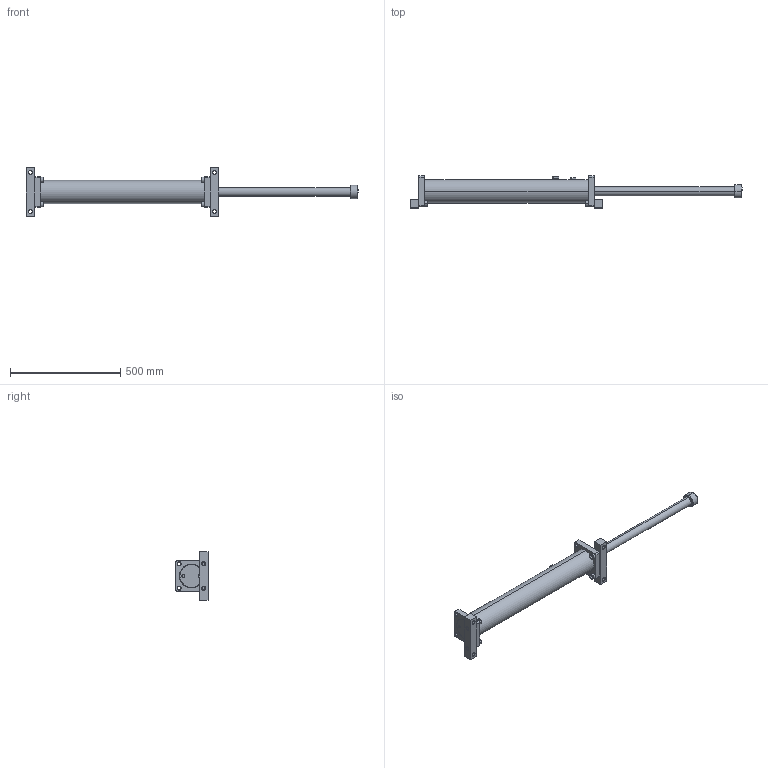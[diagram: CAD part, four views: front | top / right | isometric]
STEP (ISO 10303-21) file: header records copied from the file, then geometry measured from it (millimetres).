
FILE_DESCRIPTION (( 'STEP AP214' ), '1' );
FILE_NAME ('LDD2.0X24.STEP', '2019-01-16T06:15:00', ( 'user' ), ( 'Microsoft' ), 'SwSTEP 2.0', 'SolidWorks 2016', '' );
FILE_SCHEMA (( 'AUTOMOTIVE_DESIGN' ));
Length unit declared in the file: inch
Products named in the file (1): LDD2.0X24
Bounding box: 1509 x 145.5 x 220 mm (x, y, z)
Surface area: 562755 mm2 (no closed solid volume)
Topology: 0 solids, 25 shells, 266 faces, 700 edges, 465 vertices
Faces by surface type: plane 97, cylinder 80, cone 59, bspline 30
Entity records: 13524 total; most frequent: CARTESIAN_POINT 7031, DIRECTION 1362, ORIENTED_EDGE 1245, EDGE_CURVE 700, AXIS2_PLACEMENT_3D 528, VERTEX_POINT 465, EDGE_LOOP 323, LINE 306
